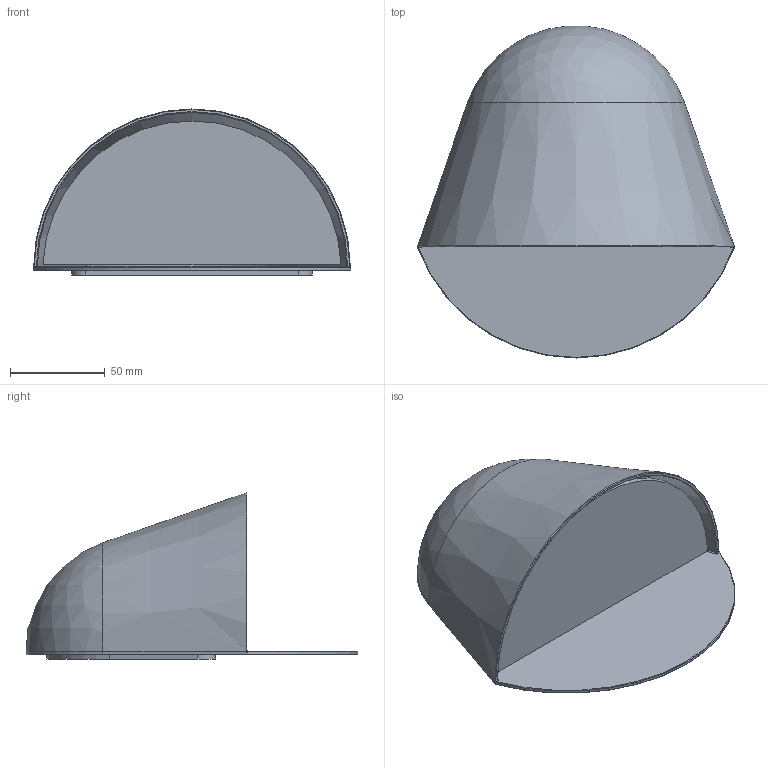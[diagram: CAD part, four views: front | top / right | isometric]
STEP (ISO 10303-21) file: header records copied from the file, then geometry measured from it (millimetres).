
FILE_DESCRIPTION(/* description */ (''),/* implementation_level */ '2;1');
FILE_NAME(/* name */ 'C:\Users\STEFANO\Desktop\1708-30 ENOKI APPLIQUE\1708-30 ASSIEME SEMP.stp',/* time_stamp */ '2019-09-09T15:25:19+02:00',/* author */ ('STEFANO'),/* organization */ (''),/* preprocessor_version */ 'ST-DEVELOPER v17',/* originating_system */ 'Autodesk Inventor 2019',/* authorisation */ '');
FILE_SCHEMA (('AUTOMOTIVE_DESIGN { 1 0 10303 214 3 1 1 }'));
Length unit declared in the file: millimetre
Products named in the file (4): 1708-30 ASSIEME SEMP; CORPO SEMP; VETRO SEMP; PIASTRA SEMP
Assembly tree (3 placements, depth 2):
  1708-30 ASSIEME SEMP
    CORPO SEMP
    VETRO SEMP
    PIASTRA SEMP
Bounding box: 166.94 x 174.79 x 87.48 mm (x, y, z)
Volume: 130209.2 mm3; surface area: 130336.9 mm2
Topology: 3 solids, 3 shells, 53 faces, 117 edges, 68 vertices
Faces by surface type: bspline 16, cylinder 14, plane 13, torus 6, sphere 2, cone 2
Entity records: 2077 total; most frequent: CARTESIAN_POINT 851, ORIENTED_EDGE 230, DIRECTION 228, EDGE_CURVE 115, AXIS2_PLACEMENT_3D 97, VERTEX_POINT 68, FACE_OUTER_BOUND 53, EDGE_LOOP 53
